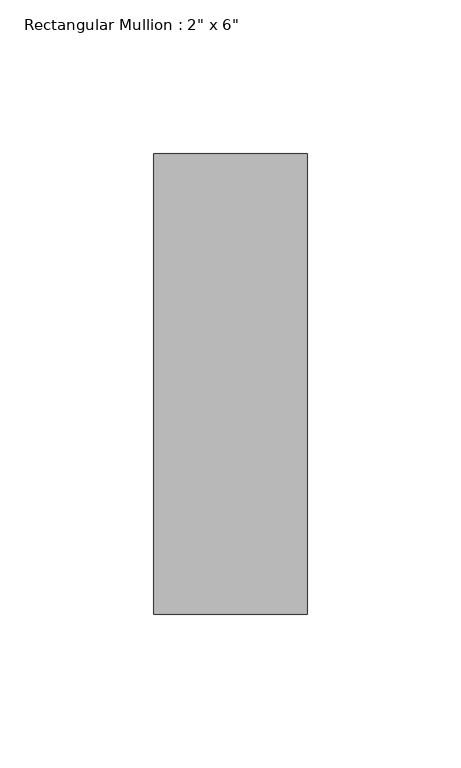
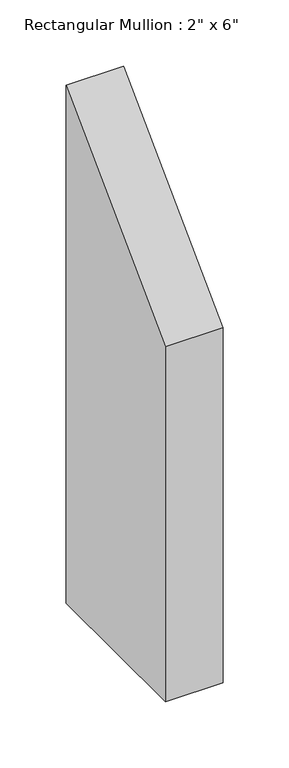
"""IFC4 building model written with IfcOpenShell, lengths in millimetres: member geometry."""

from ifc_helpers import new_model, si_unit, frame, origin, place, context, project, spatial, polyline, outline, extrude, source, transform, mapped, element, save


def member_faeeeb06(model_context):
    return source(origin(), model_context, "Body", "SweptSolid", [
        extrude(outline(polyline([(-150.0, -150.0), (0.0, 0.0), (0.0, -476.9999996), (-150.0, -476.9999996), (-150.0, -150.0)])), frame((-25.0, 0.0, 0.0), z_axis=(1.0, 0.0, 0.0), x_axis=(0.0, 1.0, 0.0)), (0.0, 0.0, 1.0), 50.0),
    ])


if __name__ == "__main__":
    model = new_model("IFC4")
    model_context = context("Model", 3, world=origin())
    ifc_project = project(units=[si_unit("LENGTHUNIT", "METRE", prefix="MILLI")], contexts=[model_context])
    site = spatial("IfcSite", under=ifc_project)
    building = spatial("IfcBuilding", under=site)
    placement = place(None, origin())
    member_shape = member_faeeeb06(model_context)
    element("IfcMember", 1, ObjectType="Rectangular Mullion : 2\" x 6\"", at=placement, inside=building, context=model_context, shape_type="MappedRepresentation", body=[
        mapped(member_shape, transform((0.0, 0.0, 0.0), x_axis=(1.0, 0.0, 0.0), y_axis=(0.0, 1.0, 0.0), z_axis=(0.0, 0.0, 1.0))),
    ])
    save(model, "model.ifc")
